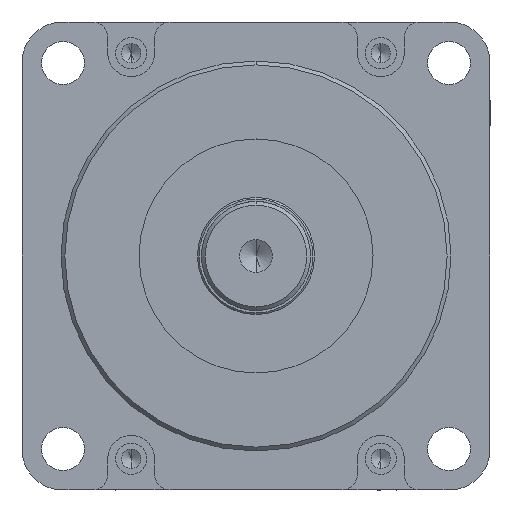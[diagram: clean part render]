
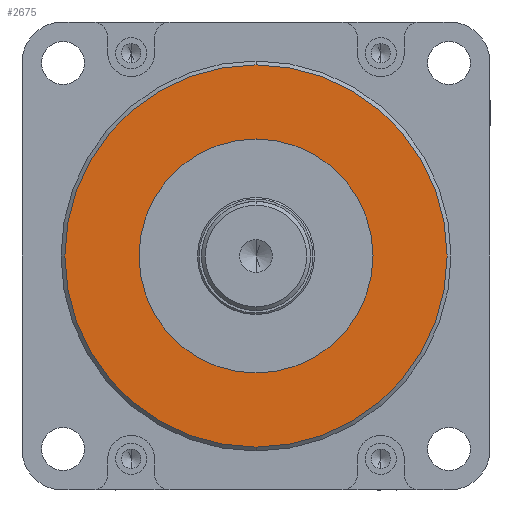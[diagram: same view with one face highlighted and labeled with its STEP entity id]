
A CAD part, left-side view. The second image highlights one B-rep face of the part: STEP entity #2675.
In plain terms, the highlighted planar face has unit normal (-1, 0, 0) as drawn and (0, 1, 0) by its records, which use the part's own axes.
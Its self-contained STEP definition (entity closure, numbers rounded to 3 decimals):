
#77 = CARTESIAN_POINT ( 'NONE',  ( 0., 16., 0. ) ) ;
#2675 = ADVANCED_FACE ( 'NONE', ( #23320, #42603 ), #29303, .T. ) ;
#4689 = EDGE_CURVE ( 'NONE', #36840, #21590, #17144, .T. ) ;
#5317 = AXIS2_PLACEMENT_3D ( 'NONE', #12901, #38928, #16603 ) ;
#5475 = EDGE_CURVE ( 'NONE', #14011, #23758, #31075, .T. ) ;
#6501 = DIRECTION ( 'NONE',  ( 0., 0., 1. ) ) ;
#7178 = CARTESIAN_POINT ( 'NONE',  ( 0., 16., 15. ) ) ;
#8620 = DIRECTION ( 'NONE',  ( 0., 1., 0. ) ) ;
#9424 = ORIENTED_EDGE ( 'NONE', *, *, #45614, .T. ) ;
#12901 = CARTESIAN_POINT ( 'NONE',  ( 0., 16., 0. ) ) ;
#14011 = VERTEX_POINT ( 'NONE', #27828 ) ;
#16603 = DIRECTION ( 'NONE',  ( 0., 0., 1. ) ) ;
#17144 = CIRCLE ( 'NONE', #5317, 15. ) ;
#19181 = EDGE_LOOP ( 'NONE', ( #9424, #32769 ) ) ;
#20803 = DIRECTION ( 'NONE',  ( 0., 1., 0. ) ) ;
#21590 = VERTEX_POINT ( 'NONE', #7178 ) ;
#22033 = DIRECTION ( 'NONE',  ( 0., 1., 0. ) ) ;
#22992 = CARTESIAN_POINT ( 'NONE',  ( 0., 16., -15. ) ) ;
#23320 = FACE_BOUND ( 'NONE', #39669, .T. ) ;
#23758 = VERTEX_POINT ( 'NONE', #48171 ) ;
#27828 = CARTESIAN_POINT ( 'NONE',  ( 0., 16., 24.5 ) ) ;
#29140 = CIRCLE ( 'NONE', #43050, 15. ) ;
#29303 = PLANE ( 'NONE',  #45508 ) ;
#30993 = AXIS2_PLACEMENT_3D ( 'NONE', #38427, #8620, #34678 ) ;
#31058 = EDGE_CURVE ( 'NONE', #21590, #36840, #29140, .T. ) ;
#31075 = CIRCLE ( 'NONE', #43370, 24.5 ) ;
#32769 = ORIENTED_EDGE ( 'NONE', *, *, #5475, .T. ) ;
#33029 = DIRECTION ( 'NONE',  ( 0., 1., 0. ) ) ;
#34678 = DIRECTION ( 'NONE',  ( 0., 0., 1. ) ) ;
#36840 = VERTEX_POINT ( 'NONE', #22992 ) ;
#37098 = ORIENTED_EDGE ( 'NONE', *, *, #31058, .F. ) ;
#38427 = CARTESIAN_POINT ( 'NONE',  ( 0., 16., 0. ) ) ;
#38928 = DIRECTION ( 'NONE',  ( 0., 1., 0. ) ) ;
#39669 = EDGE_LOOP ( 'NONE', ( #37098, #40752 ) ) ;
#40752 = ORIENTED_EDGE ( 'NONE', *, *, #4689, .F. ) ;
#42603 = FACE_OUTER_BOUND ( 'NONE', #19181, .T. ) ;
#43050 = AXIS2_PLACEMENT_3D ( 'NONE', #77, #22033, #48110 ) ;
#43135 = CARTESIAN_POINT ( 'NONE',  ( 0., 16., 0. ) ) ;
#43370 = AXIS2_PLACEMENT_3D ( 'NONE', #43135, #20803, #6501 ) ;
#44276 = CARTESIAN_POINT ( 'NONE',  ( 0., 16., 0. ) ) ;
#44292 = CIRCLE ( 'NONE', #30993, 24.5 ) ;
#45508 = AXIS2_PLACEMENT_3D ( 'NONE', #44276, #33029, #47381 ) ;
#45614 = EDGE_CURVE ( 'NONE', #23758, #14011, #44292, .T. ) ;
#47381 = DIRECTION ( 'NONE',  ( 0., 0., 1. ) ) ;
#48110 = DIRECTION ( 'NONE',  ( 0., 0., 1. ) ) ;
#48171 = CARTESIAN_POINT ( 'NONE',  ( 0., 16., -24.5 ) ) ;
